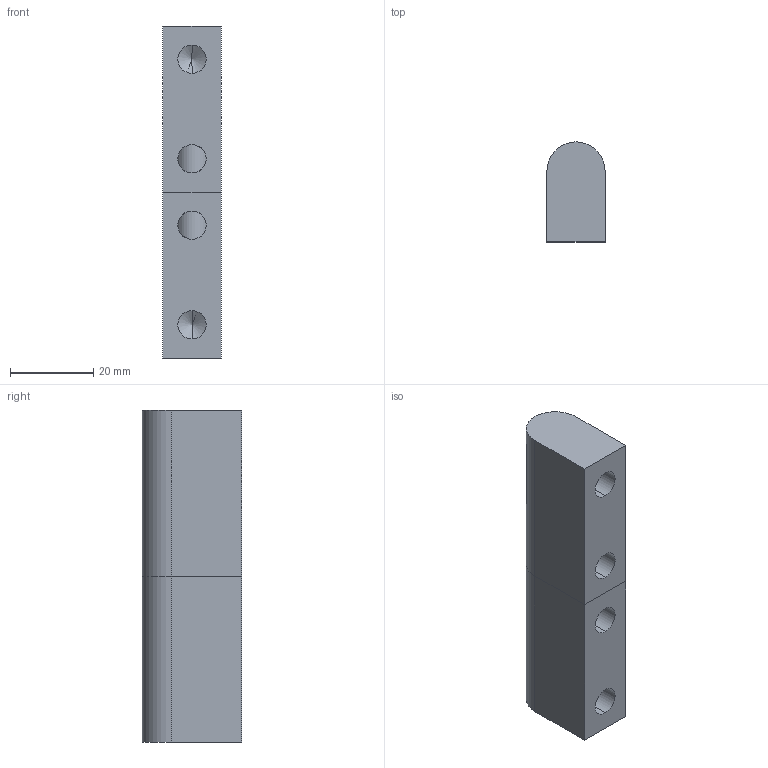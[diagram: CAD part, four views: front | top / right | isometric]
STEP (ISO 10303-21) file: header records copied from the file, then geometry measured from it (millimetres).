
FILE_DESCRIPTION (( 'STEP AP214' ), '1' );
FILE_NAME ('SK2-022-2S.STEP', '2020-04-15T06:19:07', ( 'admin' ), ( 'Microsoft' ), 'SwSTEP 2.0', 'SolidWorks 2018', '' );
FILE_SCHEMA (( 'AUTOMOTIVE_DESIGN' ));
Length unit declared in the file: millimetre
Products named in the file (3): 2-022-2S-F1; 2-022-2S-F2; SK2-022-2S
Assembly tree (3 placements, depth 2):
  SK2-022-2S
    2-022-2S-F1  x2
    2-022-2S-F2
Bounding box: 14 x 24 x 80 mm (x, y, z)
Volume: 22861 mm3; surface area: 10877.7 mm2
Topology: 3 solids, 3 shells, 38 faces, 82 edges, 50 vertices
Faces by surface type: cylinder 16, plane 14, cone 8
Entity records: 836 total; most frequent: CARTESIAN_POINT 178, DIRECTION 122, ORIENTED_EDGE 92, AXIS2_PLACEMENT_3D 49, EDGE_CURVE 46, VERTEX_POINT 29, EDGE_LOOP 27, VECTOR 24
